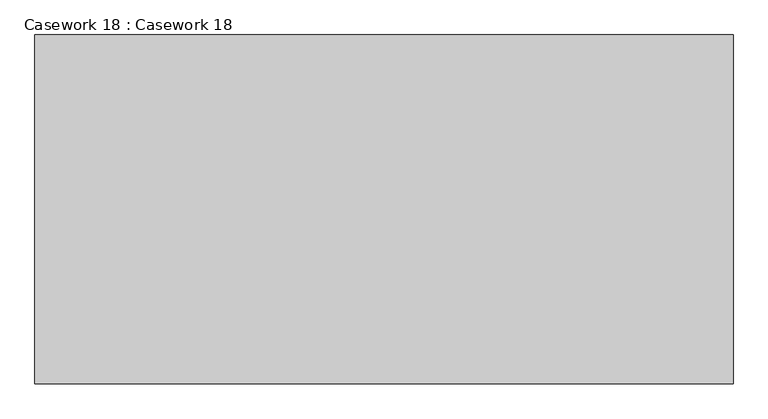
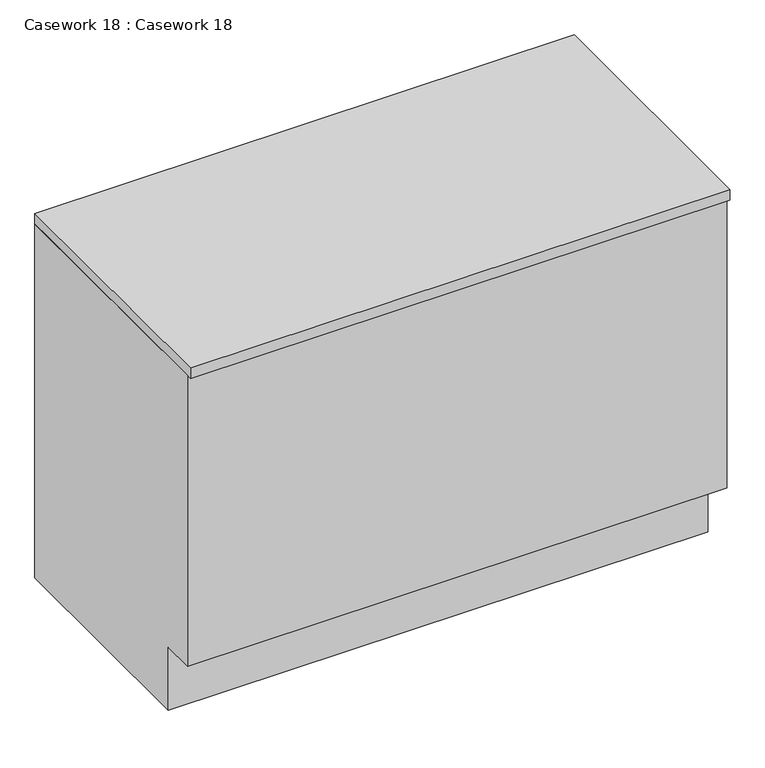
"""IFC4 building model written with IfcOpenShell, lengths in millimetres: furniture geometry, Casework 18 : Casework 18."""

from ifc_helpers import new_model, si_unit, frame, origin, place, context, project, spatial, polyline, outline, extrude, source, transform, mapped, element, save


def casework_18_casework_18_fa641dad(model_context):
    return source(origin(), model_context, "Body", "SweptSolid", [
        extrude(outline(polyline([(9436.1, 4114.8), (10045.7, 4114.8), (10045.7, 3251.2), (9512.3, 3251.2), (9512.3, 3405.1875), (9436.1, 3405.1875), (9436.1, 4114.8)])), frame((1625.4972395, 0.0, 0.0), z_axis=(1.0, 0.0, 0.0), x_axis=(0.0, 1.0, 0.0)), (0.0, 0.0, 1.0), 1244.7027605),
        extrude(outline(polyline([(2870.2, 9423.4), (1625.4972395, 9423.4), (1625.4972395, 10045.7), (2870.2, 10045.7), (2870.2, 9423.4)])), frame((0.0, 0.0, 4114.8), z_axis=(0.0, 0.0, 1.0), x_axis=(1.0, 0.0, 0.0)), (0.0, 0.0, 1.0), 25.4),
    ])


if __name__ == "__main__":
    model = new_model("IFC4")
    model_context = context("Model", 3, world=origin())
    ifc_project = project(units=[si_unit("LENGTHUNIT", "METRE", prefix="MILLI")], contexts=[model_context])
    site = spatial("IfcSite", under=ifc_project)
    building = spatial("IfcBuilding", under=site)
    placement = place(None, origin())
    casework_18_casework_18_shape = casework_18_casework_18_fa641dad(model_context)
    element("IfcFurniture", 1, ObjectType="Casework 18 : Casework 18", at=placement, inside=building, context=model_context, shape_type="MappedRepresentation", body=[
        mapped(casework_18_casework_18_shape, transform((0.0, 0.0, 0.0), x_axis=(1.0, 0.0, 0.0), y_axis=(0.0, 1.0, 0.0), z_axis=(0.0, 0.0, 1.0))),
    ])
    save(model, "model.ifc")
